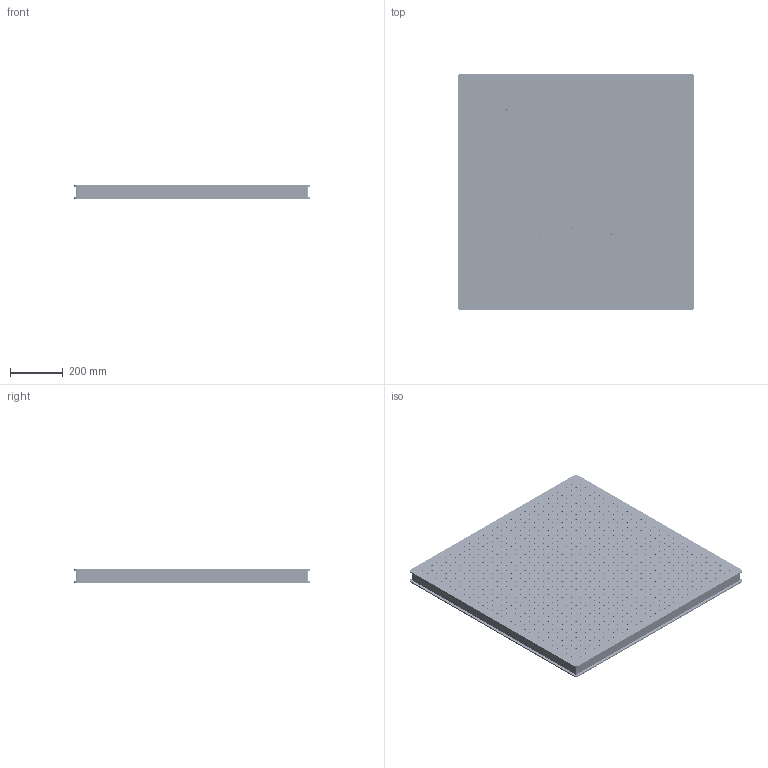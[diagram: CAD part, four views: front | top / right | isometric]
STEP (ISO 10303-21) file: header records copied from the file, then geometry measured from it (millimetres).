
FILE_DESCRIPTION (( 'STEP AP203' ), '1' );
FILE_NAME ('OTBB99-50 怢醱.STEP', '2019-05-09T08:25:56', ( 'User' ), ( 'User' ), 'SwSTEP 2.0', 'SolidWorks 2016', '' );
FILE_SCHEMA (( 'CONFIG_CONTROL_DESIGN' ));
Products named in the file (1): OTBB99-50 怢醱
Bounding box: 900 x 900 x 50 mm (x, y, z)
Surface area: 3494182.6 mm2 (no closed solid volume)
Topology: 0 solids, 30 shells, 2388 faces, 7380 edges, 5024 vertices
Faces by surface type: cylinder 2324, plane 64
Entity records: 89830 total; most frequent: DIRECTION 16806, CARTESIAN_POINT 14793, ORIENTED_EDGE 14392, EDGE_CURVE 7380, AXIS2_PLACEMENT_3D 7037, VERTEX_POINT 5024, EDGE_LOOP 4700, CIRCLE 4648
